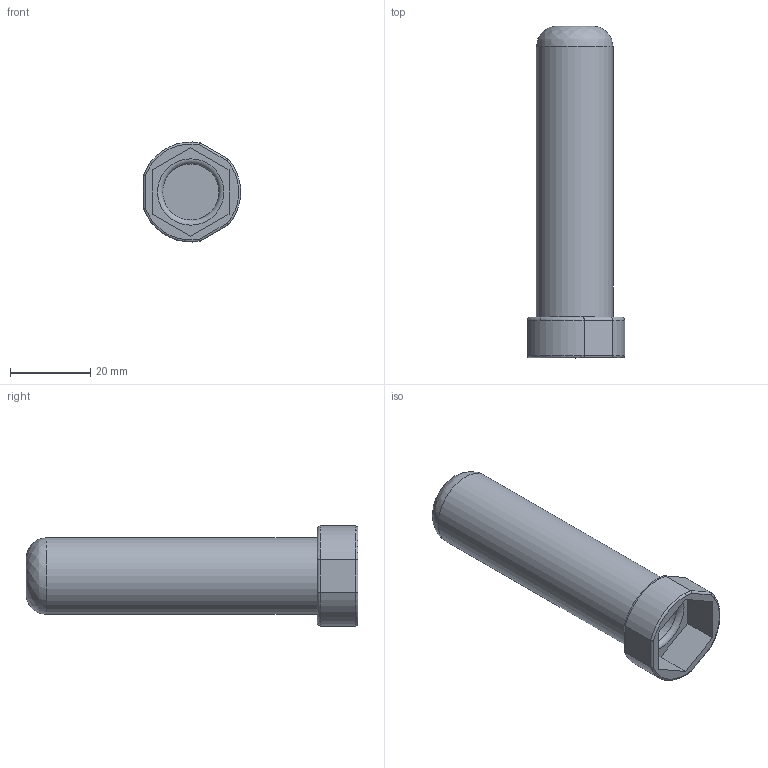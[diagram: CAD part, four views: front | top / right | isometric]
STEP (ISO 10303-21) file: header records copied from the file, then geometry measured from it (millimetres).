
FILE_DESCRIPTION(/* description */ (''),/* implementation_level */ '2;1');
FILE_NAME(/* name */ 'C:/Users/admin/Desktop/2.5 bolt buffer.step',/* time_stamp */ '2020-11-19T12:55:58-05:00',/* author */ (''),/* organization */ (''),/* preprocessor_version */ 'ST-DEVELOPER v18.1',/* originating_system */ 'Autodesk Translation Framework v9.3.0.1241',/* authorisation */ '');
FILE_SCHEMA (('AUTOMOTIVE_DESIGN { 1 0 10303 214 3 1 1 }'));
Length unit declared in the file: inch
Products named in the file (1): (Unsaved)
Bounding box: 24.17 x 82.55 x 24.88 mm (x, y, z)
Volume: 12270.1 mm3; surface area: 9340.6 mm2
Topology: 1 solids, 1 shells, 33 faces, 72 edges, 44 vertices
Faces by surface type: plane 14, cylinder 11, torus 7, bspline 1
Full cylindrical faces by diameter (mm): 13.97 x1, 19.05 x1
Entity records: 1081 total; most frequent: CARTESIAN_POINT 332, DIRECTION 148, ORIENTED_EDGE 144, EDGE_CURVE 72, AXIS2_PLACEMENT_3D 55, VERTEX_POINT 44, LINE 38, VECTOR 38
